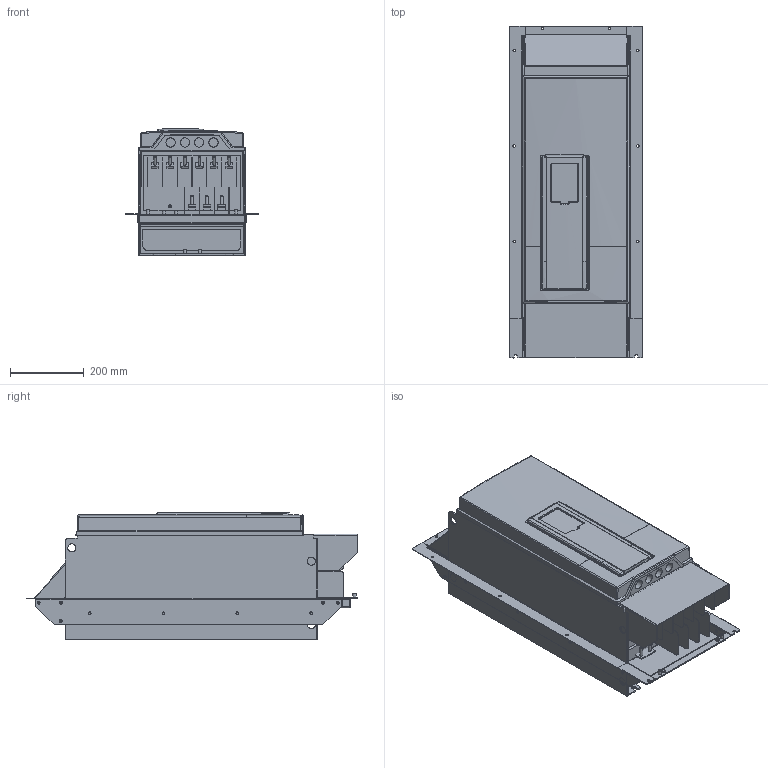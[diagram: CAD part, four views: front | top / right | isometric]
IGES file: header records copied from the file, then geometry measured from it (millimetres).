
Global section: file name: C:\temp\3D mechanics (extra.vacon)\Agileen\MR8\MR8_Simplified_Model_IP00_Flange_Mount_igs.igs; native system: NX V6.0; preprocessor: SIEMENS UGS NX 6.0; date: 20121214.122918; units: millimetre
Bounding box: 359 x 898 x 343.04 mm (x, y, z)
Surface area: 2133270.3 mm2 (no closed solid volume)
Topology: 0 solids, 0 shells, 935 faces, 6799 edges, 6653 vertices
Faces by surface type: bspline 935
